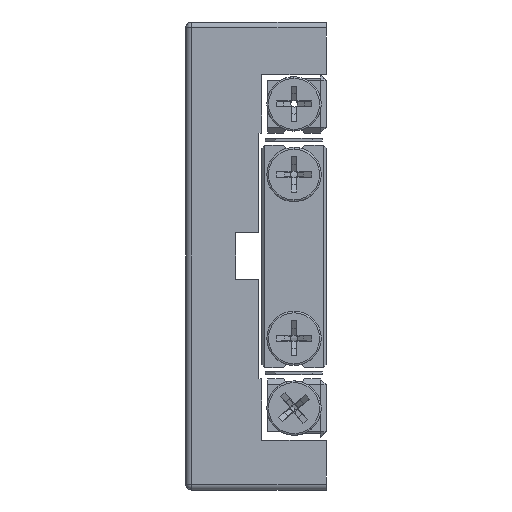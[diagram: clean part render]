
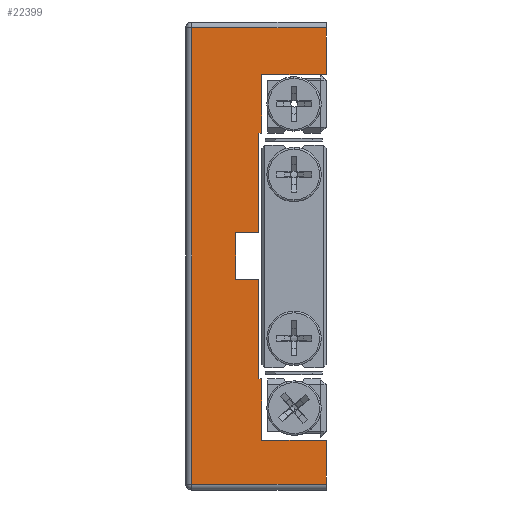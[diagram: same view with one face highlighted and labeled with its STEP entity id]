
A CAD part, left-side view. The second image highlights one B-rep face of the part: STEP entity #22399.
In plain terms, the highlighted planar face has unit normal (-1, 0, 0).
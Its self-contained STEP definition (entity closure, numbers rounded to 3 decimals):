
#1302 = ORIENTED_EDGE ( 'NONE', *, *, #32141, .T. ) ;
#1303 = ORIENTED_EDGE ( 'NONE', *, *, #32144, .T. ) ;
#1304 = ORIENTED_EDGE ( 'NONE', *, *, #15198, .F. ) ;
#1305 = ORIENTED_EDGE ( 'NONE', *, *, #15175, .F. ) ;
#1306 = ORIENTED_EDGE ( 'NONE', *, *, #15197, .F. ) ;
#1307 = ORIENTED_EDGE ( 'NONE', *, *, #15325, .F. ) ;
#1308 = ORIENTED_EDGE ( 'NONE', *, *, #15329, .F. ) ;
#1309 = ORIENTED_EDGE ( 'NONE', *, *, #15405, .F. ) ;
#1310 = ORIENTED_EDGE ( 'NONE', *, *, #15402, .F. ) ;
#1311 = ORIENTED_EDGE ( 'NONE', *, *, #15392, .F. ) ;
#1312 = ORIENTED_EDGE ( 'NONE', *, *, #15230, .F. ) ;
#1313 = ORIENTED_EDGE ( 'NONE', *, *, #15363, .F. ) ;
#1314 = ORIENTED_EDGE ( 'NONE', *, *, #15356, .F. ) ;
#1315 = ORIENTED_EDGE ( 'NONE', *, *, #32147, .T. ) ;
#1324 = ORIENTED_EDGE ( 'NONE', *, *, #15337, .T. ) ;
#1325 = ORIENTED_EDGE ( 'NONE', *, *, #32150, .T. ) ;
#7824 = CARTESIAN_POINT ( 'NONE',  ( -173.206, 10.274, -39. ) ) ;
#7850 = CARTESIAN_POINT ( 'NONE',  ( -173.206, -12.726, 39. ) ) ;
#7899 = CARTESIAN_POINT ( 'NONE',  ( -173.206, -1.226, 21. ) ) ;
#7903 = CARTESIAN_POINT ( 'NONE',  ( -173.206, 2.774, 4. ) ) ;
#8244 = CARTESIAN_POINT ( 'NONE',  ( -173.206, -1.726, -31.5 ) ) ;
#8342 = CARTESIAN_POINT ( 'NONE',  ( -173.206, -1.226, -21. ) ) ;
#8344 = CARTESIAN_POINT ( 'NONE',  ( -173.206, -1.726, -21. ) ) ;
#8350 = CARTESIAN_POINT ( 'NONE',  ( -173.206, 10.274, 39. ) ) ;
#8388 = CARTESIAN_POINT ( 'NONE',  ( -173.206, -12.726, 31. ) ) ;
#8391 = CARTESIAN_POINT ( 'NONE',  ( -173.206, -12.726, -39. ) ) ;
#8422 = CARTESIAN_POINT ( 'NONE',  ( -173.206, -1.726, 31. ) ) ;
#8585 = CARTESIAN_POINT ( 'NONE',  ( -173.206, -1.226, 4. ) ) ;
#12821 = DIRECTION ( 'NONE',  ( 0., -1., 0. ) ) ;
#12851 = CARTESIAN_POINT ( 'NONE',  ( -173.206, -1.726, -31.5 ) ) ;
#12852 = DIRECTION ( 'NONE',  ( 0., 0., -1. ) ) ;
#12927 = CARTESIAN_POINT ( 'NONE',  ( -173.206, -1.226, -21. ) ) ;
#12928 = DIRECTION ( 'NONE',  ( 0., 0., -1. ) ) ;
#12949 = CARTESIAN_POINT ( 'NONE',  ( -173.206, -1.226, -4. ) ) ;
#12950 = DIRECTION ( 'NONE',  ( 0., -1., 0. ) ) ;
#12954 = CARTESIAN_POINT ( 'NONE',  ( -173.206, 2.774, -4. ) ) ;
#12955 = DIRECTION ( 'NONE',  ( 0., 0., -1. ) ) ;
#15175 = EDGE_CURVE ( 'NONE', #43795, #48323, #27597, .T. ) ;
#15197 = EDGE_CURVE ( 'NONE', #48323, #42781, #27614, .T. ) ;
#15198 = EDGE_CURVE ( 'NONE', #43761, #43795, #27625, .T. ) ;
#15230 = EDGE_CURVE ( 'NONE', #43715, #43717, #27670, .T. ) ;
#15325 = EDGE_CURVE ( 'NONE', #42781, #43954, #27807, .T. ) ;
#15329 = EDGE_CURVE ( 'NONE', #43954, #42785, #27792, .T. ) ;
#15337 = EDGE_CURVE ( 'NONE', #42705, #43764, #27824, .T. ) ;
#15356 = EDGE_CURVE ( 'NONE', #43617, #48255, #27855, .T. ) ;
#15363 = EDGE_CURVE ( 'NONE', #43717, #43617, #27865, .T. ) ;
#15392 = EDGE_CURVE ( 'NONE', #48230, #43715, #27907, .T. ) ;
#15402 = EDGE_CURVE ( 'NONE', #48232, #48230, #27924, .T. ) ;
#15405 = EDGE_CURVE ( 'NONE', #42785, #48232, #27930, .T. ) ;
#22399 = ADVANCED_FACE ( 'NONE', ( #35884 ), #37773, .F. ) ;
#24653 = CARTESIAN_POINT ( 'NONE',  ( -173.206, -1.726, 21. ) ) ;
#24654 = DIRECTION ( 'NONE',  ( 0., 0., -1. ) ) ;
#24713 = CARTESIAN_POINT ( 'NONE',  ( -173.206, -1.226, 21. ) ) ;
#24717 = DIRECTION ( 'NONE',  ( 0., 1., 0. ) ) ;
#24718 = CARTESIAN_POINT ( 'NONE',  ( -173.206, -1.726, 31. ) ) ;
#24719 = DIRECTION ( 'NONE',  ( 0., 1., 0. ) ) ;
#24838 = CARTESIAN_POINT ( 'NONE',  ( -173.206, -1.726, -21. ) ) ;
#24841 = DIRECTION ( 'NONE',  ( 0., -1., 0. ) ) ;
#25334 = CARTESIAN_POINT ( 'NONE',  ( -173.206, 2.774, 4. ) ) ;
#25340 = CARTESIAN_POINT ( 'NONE',  ( -173.206, -1.226, 4. ) ) ;
#25341 = DIRECTION ( 'NONE',  ( 0., 0., -1. ) ) ;
#25351 = DIRECTION ( 'NONE',  ( 0., 1., 0. ) ) ;
#25391 = CARTESIAN_POINT ( 'NONE',  ( -173.206, 11.274, -39. ) ) ;
#25395 = DIRECTION ( 'NONE',  ( 0., -1., 0. ) ) ;
#25456 = CARTESIAN_POINT ( 'NONE',  ( -173.206, -1.726, -31.5 ) ) ;
#25689 = EDGE_LOOP ( 'NONE', ( #1325, #1324, #1315, #1314, #1313, #1312, #1311, #1310, #1309, #1308, #1307, #1306, #1305, #1304, #1303, #1302 ) ) ;
#27597 = LINE ( 'NONE', #24653, #27601 ) ;
#27601 = VECTOR ( 'NONE', #24654, 1000. ) ;
#27614 = LINE ( 'NONE', #24713, #27626 ) ;
#27625 = LINE ( 'NONE', #24718, #27628 ) ;
#27626 = VECTOR ( 'NONE', #24717, 1000. ) ;
#27628 = VECTOR ( 'NONE', #24719, 1000. ) ;
#27670 = LINE ( 'NONE', #24838, #27673 ) ;
#27673 = VECTOR ( 'NONE', #24841, 1000. ) ;
#27792 = LINE ( 'NONE', #25334, #27818 ) ;
#27807 = LINE ( 'NONE', #25340, #27810 ) ;
#27810 = VECTOR ( 'NONE', #25341, 1000. ) ;
#27818 = VECTOR ( 'NONE', #25351, 1000. ) ;
#27824 = LINE ( 'NONE', #25391, #27827 ) ;
#27827 = VECTOR ( 'NONE', #25395, 1000. ) ;
#27855 = LINE ( 'NONE', #25456, #27857 ) ;
#27857 = VECTOR ( 'NONE', #12821, 1000. ) ;
#27865 = LINE ( 'NONE', #12851, #27868 ) ;
#27868 = VECTOR ( 'NONE', #12852, 1000. ) ;
#27907 = LINE ( 'NONE', #12927, #27910 ) ;
#27910 = VECTOR ( 'NONE', #12928, 1000. ) ;
#27924 = LINE ( 'NONE', #12949, #27927 ) ;
#27927 = VECTOR ( 'NONE', #12950, 1000. ) ;
#27930 = LINE ( 'NONE', #12954, #27933 ) ;
#27933 = VECTOR ( 'NONE', #12955, 1000. ) ;
#32141 = EDGE_CURVE ( 'NONE', #42732, #43723, #51906, .T. ) ;
#32144 = EDGE_CURVE ( 'NONE', #43761, #42732, #51916, .T. ) ;
#32147 = EDGE_CURVE ( 'NONE', #43764, #48255, #51914, .T. ) ;
#32150 = EDGE_CURVE ( 'NONE', #43723, #42705, #51920, .T. ) ;
#33723 = CARTESIAN_POINT ( 'NONE',  ( -173.206, -1.226, -4. ) ) ;
#33725 = CARTESIAN_POINT ( 'NONE',  ( -173.206, 2.774, -4. ) ) ;
#33748 = CARTESIAN_POINT ( 'NONE',  ( -173.206, -12.726, -31.5 ) ) ;
#33816 = CARTESIAN_POINT ( 'NONE',  ( -173.206, -1.726, 21. ) ) ;
#35884 = FACE_OUTER_BOUND ( 'NONE', #25689, .T. ) ;
#37768 = CARTESIAN_POINT ( 'NONE',  ( -173.206, 11.274, -40. ) ) ;
#37773 = PLANE ( 'NONE',  #45473 ) ;
#37776 = DIRECTION ( 'NONE',  ( 1., 0., 0. ) ) ;
#37777 = DIRECTION ( 'NONE',  ( 0., 0., -1. ) ) ;
#42705 = VERTEX_POINT ( 'NONE', #7824 ) ;
#42732 = VERTEX_POINT ( 'NONE', #7850 ) ;
#42781 = VERTEX_POINT ( 'NONE', #7899 ) ;
#42785 = VERTEX_POINT ( 'NONE', #7903 ) ;
#43617 = VERTEX_POINT ( 'NONE', #8244 ) ;
#43715 = VERTEX_POINT ( 'NONE', #8342 ) ;
#43717 = VERTEX_POINT ( 'NONE', #8344 ) ;
#43723 = VERTEX_POINT ( 'NONE', #8350 ) ;
#43761 = VERTEX_POINT ( 'NONE', #8388 ) ;
#43764 = VERTEX_POINT ( 'NONE', #8391 ) ;
#43795 = VERTEX_POINT ( 'NONE', #8422 ) ;
#43954 = VERTEX_POINT ( 'NONE', #8585 ) ;
#45473 = AXIS2_PLACEMENT_3D ( 'NONE', #37768, #37776, #37777 ) ;
#48230 = VERTEX_POINT ( 'NONE', #33723 ) ;
#48232 = VERTEX_POINT ( 'NONE', #33725 ) ;
#48255 = VERTEX_POINT ( 'NONE', #33748 ) ;
#48323 = VERTEX_POINT ( 'NONE', #33816 ) ;
#51906 = LINE ( 'NONE', #53554, #51908 ) ;
#51908 = VECTOR ( 'NONE', #53573, 1000. ) ;
#51913 = VECTOR ( 'NONE', #53645, 1000. ) ;
#51914 = LINE ( 'NONE', #53630, #51913 ) ;
#51915 = VECTOR ( 'NONE', #53609, 1000. ) ;
#51916 = LINE ( 'NONE', #53608, #51915 ) ;
#51919 = VECTOR ( 'NONE', #53685, 1000. ) ;
#51920 = LINE ( 'NONE', #53684, #51919 ) ;
#53554 = CARTESIAN_POINT ( 'NONE',  ( -173.206, 11.274, 39. ) ) ;
#53573 = DIRECTION ( 'NONE',  ( 0., 1., 0. ) ) ;
#53608 = CARTESIAN_POINT ( 'NONE',  ( -173.206, -12.726, -40. ) ) ;
#53609 = DIRECTION ( 'NONE',  ( 0., 0., 1. ) ) ;
#53630 = CARTESIAN_POINT ( 'NONE',  ( -173.206, -12.726, -40. ) ) ;
#53645 = DIRECTION ( 'NONE',  ( 0., 0., 1. ) ) ;
#53684 = CARTESIAN_POINT ( 'NONE',  ( -173.206, 10.274, -40. ) ) ;
#53685 = DIRECTION ( 'NONE',  ( 0., 0., -1. ) ) ;
